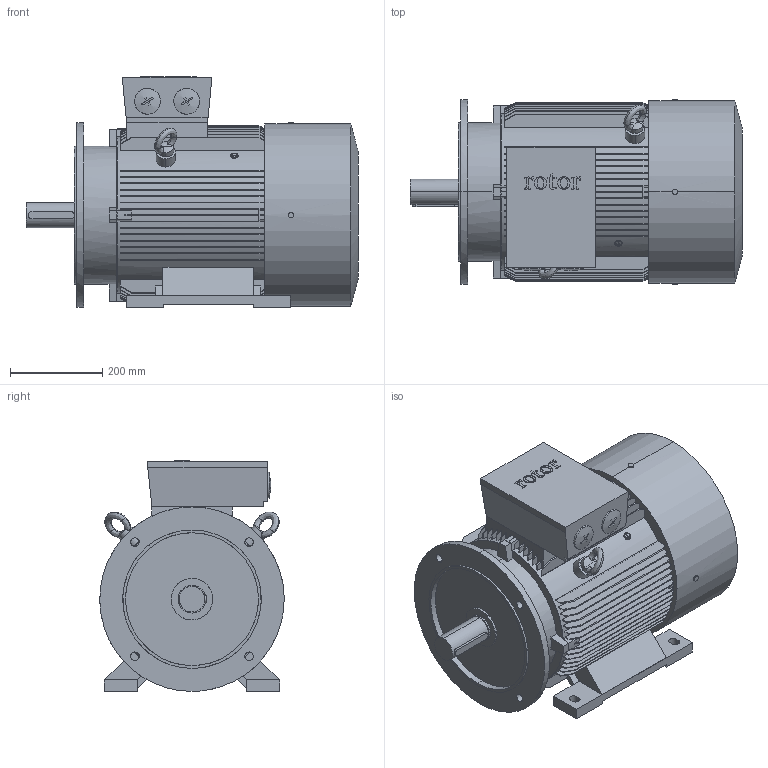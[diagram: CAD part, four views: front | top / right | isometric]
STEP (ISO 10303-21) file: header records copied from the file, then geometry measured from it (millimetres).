
FILE_DESCRIPTION (( 'STEP AP203' ), '1' );
FILE_NAME ('5RN200L02B35 30KW.STEP', '2011-09-29T13:03:54', ( 'RotorIT' ), ( 'Hewlett-Packard Company' ), 'SwSTEP 2.0', 'SolidWorks 2011', '' );
FILE_SCHEMA (( 'CONFIG_CONTROL_DESIGN' ));
Length unit declared in the file: millimetre
Products named in the file (1): 5RN200L02B35 30KW
Bounding box: 720 x 402 x 500.5 mm (x, y, z)
Volume: 69743018.7 mm3; surface area: 2192788.2 mm2
Topology: 1 solids, 1 shells, 798 faces, 2336 edges, 1565 vertices
Faces by surface type: plane 435, cylinder 165, cone 132, bspline 66
Entity records: 38404 total; most frequent: CARTESIAN_POINT 18290, ORIENTED_EDGE 4664, DIRECTION 3525, EDGE_CURVE 2332, VERTEX_POINT 1565, LINE 1209, VECTOR 1209, AXIS2_PLACEMENT_3D 1158
